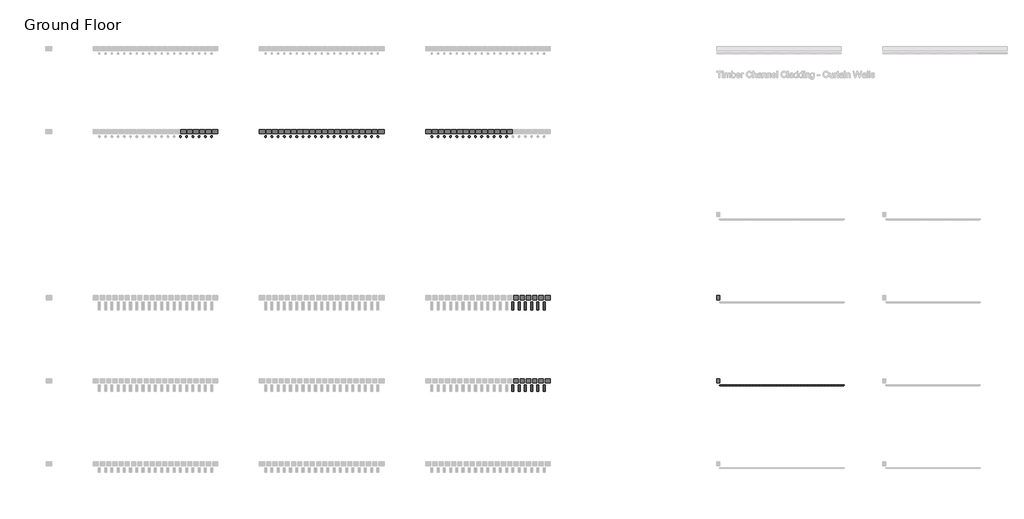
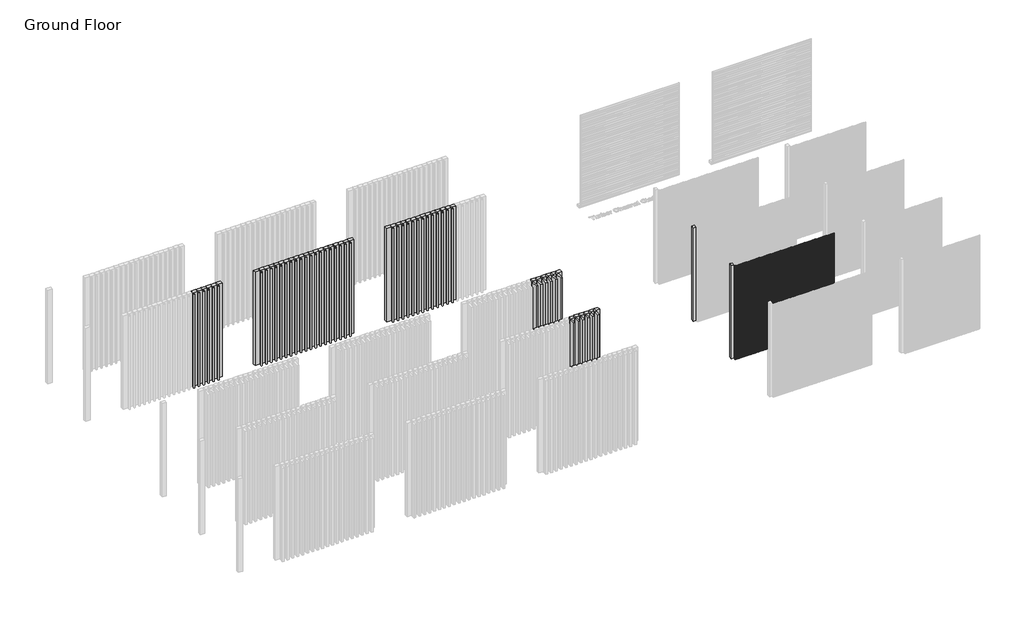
# One storey, part 22 of 350: 87 members, 54 plates.
"""IFC4 building model written with IfcOpenShell, lengths in millimetres."""

from ifc_helpers import new_model, si_unit, origin, place, context, project, spatial, transform, mapped, element, save
from components import rectangular_mullion_d8d867ca, rectangular_mullion_26362614, rectangular_mullion_afeb8ef8, rectangular_mullion_14973cdb, empty_system_panel_empty_23ba90fe, empty_system_panel_empty_02e968fa, empty_system_panel_empty_b0a57c37, empty_system_panel_empty_a9f5b765, empty_system_panel_empty_5da2f048, empty_system_panel_empty_cbd4e42b

model = new_model("IFC4")

# Units and contexts
model_context = context("Model", 3, world=origin())
ifc_project = project(units=[si_unit("LENGTHUNIT", "METRE", prefix="MILLI")], contexts=[model_context])

# Site, building, storey
site = spatial("IfcSite", under=ifc_project)
building = spatial("IfcBuilding", under=site)
storey = spatial("IfcBuildingStorey", under=building, Name="Ground Floor", Elevation=0.0)

# Members
placement = place(None, origin())
rectangular_mullion_shape = rectangular_mullion_d8d867ca(model_context)
element("IfcMember", 1, ObjectType="Rectangular Mullion : Batten_Aluminium_Modinex_Austratus_Linear_Dowel_SpottedGum", at=placement, inside=storey, context=model_context, shape_type="MappedRepresentation", body=[
    mapped(rectangular_mullion_shape, transform((16016.4361642, 30968.2978302, 0.0), x_axis=(1.0, 0.0, 0.0), y_axis=(0.0, -1.0, 0.0), z_axis=(0.0, 0.0, -1.0))),
])
element("IfcMember", 2, ObjectType="Rectangular Mullion : Batten_Aluminium_Modinex_Austratus_Linear_Dowel_SpottedGum", at=placement, inside=storey, context=model_context, shape_type="MappedRepresentation", body=[
    mapped(rectangular_mullion_shape, transform((16166.4361642, 30968.2978302, 0.0), x_axis=(1.0, 0.0, 0.0), y_axis=(0.0, -1.0, 0.0), z_axis=(0.0, 0.0, -1.0))),
])
element("IfcMember", 3, ObjectType="Rectangular Mullion : Batten_Aluminium_Modinex_Austratus_Linear_Dowel_SpottedGum", at=placement, inside=storey, context=model_context, shape_type="MappedRepresentation", body=[
    mapped(rectangular_mullion_shape, transform((16316.4361642, 30968.2978302, 0.0), x_axis=(1.0, 0.0, 0.0), y_axis=(0.0, -1.0, 0.0), z_axis=(0.0, 0.0, -1.0))),
])
element("IfcMember", 4, ObjectType="Rectangular Mullion : Batten_Aluminium_Modinex_Austratus_Linear_Dowel_SpottedGum", at=placement, inside=storey, context=model_context, shape_type="MappedRepresentation", body=[
    mapped(rectangular_mullion_shape, transform((16466.4361642, 30968.2978302, 0.0), x_axis=(1.0, 0.0, 0.0), y_axis=(0.0, -1.0, 0.0), z_axis=(0.0, 0.0, -1.0))),
])
element("IfcMember", 5, ObjectType="Rectangular Mullion : Batten_Aluminium_Modinex_Austratus_Linear_Dowel_SpottedGum", at=placement, inside=storey, context=model_context, shape_type="MappedRepresentation", body=[
    mapped(rectangular_mullion_shape, transform((16616.4361642, 30968.2978302, 0.0), x_axis=(1.0, 0.0, 0.0), y_axis=(0.0, -1.0, 0.0), z_axis=(0.0, 0.0, -1.0))),
])
element("IfcMember", 6, ObjectType="Rectangular Mullion : Batten_Aluminium_Modinex_Austratus_Linear_Dowel_SpottedGum", at=placement, inside=storey, context=model_context, shape_type="MappedRepresentation", body=[
    mapped(rectangular_mullion_shape, transform((16766.4361642, 30968.2978302, 0.0), x_axis=(1.0, 0.0, 0.0), y_axis=(0.0, -1.0, 0.0), z_axis=(0.0, 0.0, -1.0))),
])
element("IfcMember", 7, ObjectType="Rectangular Mullion : Batten_Aluminium_Modinex_Austratus_Linear_Dowel_TasmanianOak", at=placement, inside=storey, context=model_context, shape_type="MappedRepresentation", body=[
    mapped(rectangular_mullion_shape, transform((18066.4361642, 30968.2978302, 0.0), x_axis=(1.0, 0.0, 0.0), y_axis=(0.0, -1.0, 0.0), z_axis=(0.0, 0.0, -1.0))),
])
element("IfcMember", 8, ObjectType="Rectangular Mullion : Batten_Aluminium_Modinex_Austratus_Linear_Dowel_TasmanianOak", at=placement, inside=storey, context=model_context, shape_type="MappedRepresentation", body=[
    mapped(rectangular_mullion_shape, transform((18216.4361642, 30968.2978302, 0.0), x_axis=(1.0, 0.0, 0.0), y_axis=(0.0, -1.0, 0.0), z_axis=(0.0, 0.0, -1.0))),
])
element("IfcMember", 9, ObjectType="Rectangular Mullion : Batten_Aluminium_Modinex_Austratus_Linear_Dowel_TasmanianOak", at=placement, inside=storey, context=model_context, shape_type="MappedRepresentation", body=[
    mapped(rectangular_mullion_shape, transform((18366.4361642, 30968.2978302, 0.0), x_axis=(1.0, 0.0, 0.0), y_axis=(0.0, -1.0, 0.0), z_axis=(0.0, 0.0, -1.0))),
])
element("IfcMember", 10, ObjectType="Rectangular Mullion : Batten_Aluminium_Modinex_Austratus_Linear_Dowel_TasmanianOak", at=placement, inside=storey, context=model_context, shape_type="MappedRepresentation", body=[
    mapped(rectangular_mullion_shape, transform((18516.4361642, 30968.2978302, 0.0), x_axis=(1.0, 0.0, 0.0), y_axis=(0.0, -1.0, 0.0), z_axis=(0.0, 0.0, -1.0))),
])
element("IfcMember", 11, ObjectType="Rectangular Mullion : Batten_Aluminium_Modinex_Austratus_Linear_Dowel_TasmanianOak", at=placement, inside=storey, context=model_context, shape_type="MappedRepresentation", body=[
    mapped(rectangular_mullion_shape, transform((18666.4361642, 30968.2978302, 0.0), x_axis=(1.0, 0.0, 0.0), y_axis=(0.0, -1.0, 0.0), z_axis=(0.0, 0.0, -1.0))),
])
element("IfcMember", 12, ObjectType="Rectangular Mullion : Batten_Aluminium_Modinex_Austratus_Linear_Dowel_TasmanianOak", at=placement, inside=storey, context=model_context, shape_type="MappedRepresentation", body=[
    mapped(rectangular_mullion_shape, transform((18816.4361642, 30968.2978302, 0.0), x_axis=(1.0, 0.0, 0.0), y_axis=(0.0, -1.0, 0.0), z_axis=(0.0, 0.0, -1.0))),
])
element("IfcMember", 13, ObjectType="Rectangular Mullion : Batten_Aluminium_Modinex_Austratus_Linear_Dowel_TasmanianOak", at=placement, inside=storey, context=model_context, shape_type="MappedRepresentation", body=[
    mapped(rectangular_mullion_shape, transform((18966.4361642, 30968.2978302, 0.0), x_axis=(1.0, 0.0, 0.0), y_axis=(0.0, -1.0, 0.0), z_axis=(0.0, 0.0, -1.0))),
])
element("IfcMember", 14, ObjectType="Rectangular Mullion : Batten_Aluminium_Modinex_Austratus_Linear_Dowel_TasmanianOak", at=placement, inside=storey, context=model_context, shape_type="MappedRepresentation", body=[
    mapped(rectangular_mullion_shape, transform((19116.4361642, 30968.2978302, 0.0), x_axis=(1.0, 0.0, 0.0), y_axis=(0.0, -1.0, 0.0), z_axis=(0.0, 0.0, -1.0))),
])
element("IfcMember", 15, ObjectType="Rectangular Mullion : Batten_Aluminium_Modinex_Austratus_Linear_Dowel_TasmanianOak", at=placement, inside=storey, context=model_context, shape_type="MappedRepresentation", body=[
    mapped(rectangular_mullion_shape, transform((19266.4361642, 30968.2978302, 0.0), x_axis=(1.0, 0.0, 0.0), y_axis=(0.0, -1.0, 0.0), z_axis=(0.0, 0.0, -1.0))),
])
element("IfcMember", 16, ObjectType="Rectangular Mullion : Batten_Aluminium_Modinex_Austratus_Linear_Dowel_TasmanianOak", at=placement, inside=storey, context=model_context, shape_type="MappedRepresentation", body=[
    mapped(rectangular_mullion_shape, transform((19416.4361642, 30968.2978302, 0.0), x_axis=(1.0, 0.0, 0.0), y_axis=(0.0, -1.0, 0.0), z_axis=(0.0, 0.0, -1.0))),
])
element("IfcMember", 17, ObjectType="Rectangular Mullion : Batten_Aluminium_Modinex_Austratus_Linear_Dowel_TasmanianOak", at=placement, inside=storey, context=model_context, shape_type="MappedRepresentation", body=[
    mapped(rectangular_mullion_shape, transform((19566.4361642, 30968.2978302, 0.0), x_axis=(1.0, 0.0, 0.0), y_axis=(0.0, -1.0, 0.0), z_axis=(0.0, 0.0, -1.0))),
])
element("IfcMember", 18, ObjectType="Rectangular Mullion : Batten_Aluminium_Modinex_Austratus_Linear_Dowel_TasmanianOak", at=placement, inside=storey, context=model_context, shape_type="MappedRepresentation", body=[
    mapped(rectangular_mullion_shape, transform((19716.4361642, 30968.2978302, 0.0), x_axis=(1.0, 0.0, 0.0), y_axis=(0.0, -1.0, 0.0), z_axis=(0.0, 0.0, -1.0))),
])
element("IfcMember", 19, ObjectType="Rectangular Mullion : Batten_Aluminium_Modinex_Austratus_Linear_Dowel_TasmanianOak", at=placement, inside=storey, context=model_context, shape_type="MappedRepresentation", body=[
    mapped(rectangular_mullion_shape, transform((19866.4361642, 30968.2978302, 0.0), x_axis=(1.0, 0.0, 0.0), y_axis=(0.0, -1.0, 0.0), z_axis=(0.0, 0.0, -1.0))),
])
element("IfcMember", 20, ObjectType="Rectangular Mullion : Batten_Aluminium_Modinex_Austratus_Linear_Dowel_TasmanianOak", at=placement, inside=storey, context=model_context, shape_type="MappedRepresentation", body=[
    mapped(rectangular_mullion_shape, transform((20016.4361642, 30968.2978302, 0.0), x_axis=(1.0, 0.0, 0.0), y_axis=(0.0, -1.0, 0.0), z_axis=(0.0, 0.0, -1.0))),
])
element("IfcMember", 21, ObjectType="Rectangular Mullion : Batten_Aluminium_Modinex_Austratus_Linear_Dowel_TasmanianOak", at=placement, inside=storey, context=model_context, shape_type="MappedRepresentation", body=[
    mapped(rectangular_mullion_shape, transform((20166.4361642, 30968.2978302, 0.0), x_axis=(1.0, 0.0, 0.0), y_axis=(0.0, -1.0, 0.0), z_axis=(0.0, 0.0, -1.0))),
])
element("IfcMember", 22, ObjectType="Rectangular Mullion : Batten_Aluminium_Modinex_Austratus_Linear_Dowel_TasmanianOak", at=placement, inside=storey, context=model_context, shape_type="MappedRepresentation", body=[
    mapped(rectangular_mullion_shape, transform((20316.4361642, 30968.2978302, 0.0), x_axis=(1.0, 0.0, 0.0), y_axis=(0.0, -1.0, 0.0), z_axis=(0.0, 0.0, -1.0))),
])
element("IfcMember", 23, ObjectType="Rectangular Mullion : Batten_Aluminium_Modinex_Austratus_Linear_Dowel_TasmanianOak", at=placement, inside=storey, context=model_context, shape_type="MappedRepresentation", body=[
    mapped(rectangular_mullion_shape, transform((20466.4361642, 30968.2978302, 0.0), x_axis=(1.0, 0.0, 0.0), y_axis=(0.0, -1.0, 0.0), z_axis=(0.0, 0.0, -1.0))),
])
element("IfcMember", 24, ObjectType="Rectangular Mullion : Batten_Aluminium_Modinex_Austratus_Linear_Dowel_TasmanianOak", at=placement, inside=storey, context=model_context, shape_type="MappedRepresentation", body=[
    mapped(rectangular_mullion_shape, transform((20616.4361642, 30968.2978302, 0.0), x_axis=(1.0, 0.0, 0.0), y_axis=(0.0, -1.0, 0.0), z_axis=(0.0, 0.0, -1.0))),
])
element("IfcMember", 25, ObjectType="Rectangular Mullion : Batten_Aluminium_Modinex_Austratus_Linear_Dowel_TasmanianOak", at=placement, inside=storey, context=model_context, shape_type="MappedRepresentation", body=[
    mapped(rectangular_mullion_shape, transform((20766.4361642, 30968.2978302, 0.0), x_axis=(1.0, 0.0, 0.0), y_axis=(0.0, -1.0, 0.0), z_axis=(0.0, 0.0, -1.0))),
])
rectangular_mullion_2_shape = rectangular_mullion_26362614(model_context)
element("IfcMember", 26, ObjectType="Rectangular Mullion : Batten_Aluminium_Modinex_AluBatten_50x150_WhiteOak", at=placement, inside=storey, context=model_context, shape_type="MappedRepresentation", body=[
    mapped(rectangular_mullion_2_shape, transform((24016.4361642, 24968.2978302, 0.0), x_axis=(1.0, 0.0, 0.0), y_axis=(0.0, -1.0, 0.0), z_axis=(0.0, 0.0, -1.0))),
])
element("IfcMember", 27, ObjectType="Rectangular Mullion : Batten_Aluminium_Modinex_AluBatten_50x150_WhiteOak", at=placement, inside=storey, context=model_context, shape_type="MappedRepresentation", body=[
    mapped(rectangular_mullion_2_shape, transform((24166.4361642, 24968.2978302, 0.0), x_axis=(1.0, 0.0, 0.0), y_axis=(0.0, -1.0, 0.0), z_axis=(0.0, 0.0, -1.0))),
])
element("IfcMember", 28, ObjectType="Rectangular Mullion : Batten_Aluminium_Modinex_AluBatten_50x150_WhiteOak", at=placement, inside=storey, context=model_context, shape_type="MappedRepresentation", body=[
    mapped(rectangular_mullion_2_shape, transform((24316.4361642, 24968.2978302, 0.0), x_axis=(1.0, 0.0, 0.0), y_axis=(0.0, -1.0, 0.0), z_axis=(0.0, 0.0, -1.0))),
])
element("IfcMember", 29, ObjectType="Rectangular Mullion : Batten_Aluminium_Modinex_AluBatten_50x150_WhiteOak", at=placement, inside=storey, context=model_context, shape_type="MappedRepresentation", body=[
    mapped(rectangular_mullion_2_shape, transform((24466.4361642, 24968.2978302, 0.0), x_axis=(1.0, 0.0, 0.0), y_axis=(0.0, -1.0, 0.0), z_axis=(0.0, 0.0, -1.0))),
])
element("IfcMember", 30, ObjectType="Rectangular Mullion : Batten_Aluminium_Modinex_AluBatten_50x150_WhiteOak", at=placement, inside=storey, context=model_context, shape_type="MappedRepresentation", body=[
    mapped(rectangular_mullion_2_shape, transform((24616.4361642, 24968.2978302, 0.0), x_axis=(1.0, 0.0, 0.0), y_axis=(0.0, -1.0, 0.0), z_axis=(0.0, 0.0, -1.0))),
])
element("IfcMember", 31, ObjectType="Rectangular Mullion : Batten_Aluminium_Modinex_AluBatten_50x150_WhiteOak", at=placement, inside=storey, context=model_context, shape_type="MappedRepresentation", body=[
    mapped(rectangular_mullion_2_shape, transform((24766.4361642, 24968.2978302, 0.0), x_axis=(1.0, 0.0, 0.0), y_axis=(0.0, -1.0, 0.0), z_axis=(0.0, 0.0, -1.0))),
])
rectangular_mullion_3_shape = rectangular_mullion_afeb8ef8(model_context)
element("IfcMember", 32, ObjectType="Rectangular Mullion : Batten_Aluminium_Modinex_AluBatten_50x200_WhiteOak", at=placement, inside=storey, context=model_context, shape_type="MappedRepresentation", body=[
    mapped(rectangular_mullion_3_shape, transform((24016.4361642, 26968.2978302, 0.0), x_axis=(1.0, 0.0, 0.0), y_axis=(0.0, -1.0, 0.0), z_axis=(0.0, 0.0, -1.0))),
])
element("IfcMember", 33, ObjectType="Rectangular Mullion : Batten_Aluminium_Modinex_AluBatten_50x200_WhiteOak", at=placement, inside=storey, context=model_context, shape_type="MappedRepresentation", body=[
    mapped(rectangular_mullion_3_shape, transform((24166.4361642, 26968.2978302, 0.0), x_axis=(1.0, 0.0, 0.0), y_axis=(0.0, -1.0, 0.0), z_axis=(0.0, 0.0, -1.0))),
])
element("IfcMember", 34, ObjectType="Rectangular Mullion : Batten_Aluminium_Modinex_AluBatten_50x200_WhiteOak", at=placement, inside=storey, context=model_context, shape_type="MappedRepresentation", body=[
    mapped(rectangular_mullion_3_shape, transform((24316.4361642, 26968.2978302, 0.0), x_axis=(1.0, 0.0, 0.0), y_axis=(0.0, -1.0, 0.0), z_axis=(0.0, 0.0, -1.0))),
])
element("IfcMember", 35, ObjectType="Rectangular Mullion : Batten_Aluminium_Modinex_AluBatten_50x200_WhiteOak", at=placement, inside=storey, context=model_context, shape_type="MappedRepresentation", body=[
    mapped(rectangular_mullion_3_shape, transform((24466.4361642, 26968.2978302, 0.0), x_axis=(1.0, 0.0, 0.0), y_axis=(0.0, -1.0, 0.0), z_axis=(0.0, 0.0, -1.0))),
])
element("IfcMember", 36, ObjectType="Rectangular Mullion : Batten_Aluminium_Modinex_AluBatten_50x200_WhiteOak", at=placement, inside=storey, context=model_context, shape_type="MappedRepresentation", body=[
    mapped(rectangular_mullion_3_shape, transform((24616.4361642, 26968.2978302, 0.0), x_axis=(1.0, 0.0, 0.0), y_axis=(0.0, -1.0, 0.0), z_axis=(0.0, 0.0, -1.0))),
])
element("IfcMember", 37, ObjectType="Rectangular Mullion : Batten_Aluminium_Modinex_AluBatten_50x200_WhiteOak", at=placement, inside=storey, context=model_context, shape_type="MappedRepresentation", body=[
    mapped(rectangular_mullion_3_shape, transform((24766.4361642, 26968.2978302, 0.0), x_axis=(1.0, 0.0, 0.0), y_axis=(0.0, -1.0, 0.0), z_axis=(0.0, 0.0, -1.0))),
])
element("IfcMember", 38, ObjectType="Rectangular Mullion : Batten_Aluminium_Modinex_Austratus_Linear_Dowel_WhiteOak", at=placement, inside=storey, context=model_context, shape_type="MappedRepresentation", body=[
    mapped(rectangular_mullion_shape, transform((22066.4361642, 30968.2978302, 0.0), x_axis=(1.0, 0.0, 0.0), y_axis=(0.0, -1.0, 0.0), z_axis=(0.0, 0.0, -1.0))),
])
element("IfcMember", 39, ObjectType="Rectangular Mullion : Batten_Aluminium_Modinex_Austratus_Linear_Dowel_WhiteOak", at=placement, inside=storey, context=model_context, shape_type="MappedRepresentation", body=[
    mapped(rectangular_mullion_shape, transform((22216.4361642, 30968.2978302, 0.0), x_axis=(1.0, 0.0, 0.0), y_axis=(0.0, -1.0, 0.0), z_axis=(0.0, 0.0, -1.0))),
])
element("IfcMember", 40, ObjectType="Rectangular Mullion : Batten_Aluminium_Modinex_Austratus_Linear_Dowel_WhiteOak", at=placement, inside=storey, context=model_context, shape_type="MappedRepresentation", body=[
    mapped(rectangular_mullion_shape, transform((22366.4361642, 30968.2978302, 0.0), x_axis=(1.0, 0.0, 0.0), y_axis=(0.0, -1.0, 0.0), z_axis=(0.0, 0.0, -1.0))),
])
element("IfcMember", 41, ObjectType="Rectangular Mullion : Batten_Aluminium_Modinex_Austratus_Linear_Dowel_WhiteOak", at=placement, inside=storey, context=model_context, shape_type="MappedRepresentation", body=[
    mapped(rectangular_mullion_shape, transform((22516.4361642, 30968.2978302, 0.0), x_axis=(1.0, 0.0, 0.0), y_axis=(0.0, -1.0, 0.0), z_axis=(0.0, 0.0, -1.0))),
])
element("IfcMember", 42, ObjectType="Rectangular Mullion : Batten_Aluminium_Modinex_Austratus_Linear_Dowel_WhiteOak", at=placement, inside=storey, context=model_context, shape_type="MappedRepresentation", body=[
    mapped(rectangular_mullion_shape, transform((22666.4361642, 30968.2978302, 0.0), x_axis=(1.0, 0.0, 0.0), y_axis=(0.0, -1.0, 0.0), z_axis=(0.0, 0.0, -1.0))),
])
element("IfcMember", 43, ObjectType="Rectangular Mullion : Batten_Aluminium_Modinex_Austratus_Linear_Dowel_WhiteOak", at=placement, inside=storey, context=model_context, shape_type="MappedRepresentation", body=[
    mapped(rectangular_mullion_shape, transform((22816.4361642, 30968.2978302, 0.0), x_axis=(1.0, 0.0, 0.0), y_axis=(0.0, -1.0, 0.0), z_axis=(0.0, 0.0, -1.0))),
])
element("IfcMember", 44, ObjectType="Rectangular Mullion : Batten_Aluminium_Modinex_Austratus_Linear_Dowel_WhiteOak", at=placement, inside=storey, context=model_context, shape_type="MappedRepresentation", body=[
    mapped(rectangular_mullion_shape, transform((22966.4361642, 30968.2978302, 0.0), x_axis=(1.0, 0.0, 0.0), y_axis=(0.0, -1.0, 0.0), z_axis=(0.0, 0.0, -1.0))),
])
element("IfcMember", 45, ObjectType="Rectangular Mullion : Batten_Aluminium_Modinex_Austratus_Linear_Dowel_WhiteOak", at=placement, inside=storey, context=model_context, shape_type="MappedRepresentation", body=[
    mapped(rectangular_mullion_shape, transform((23116.4361642, 30968.2978302, 0.0), x_axis=(1.0, 0.0, 0.0), y_axis=(0.0, -1.0, 0.0), z_axis=(0.0, 0.0, -1.0))),
])
element("IfcMember", 46, ObjectType="Rectangular Mullion : Batten_Aluminium_Modinex_Austratus_Linear_Dowel_WhiteOak", at=placement, inside=storey, context=model_context, shape_type="MappedRepresentation", body=[
    mapped(rectangular_mullion_shape, transform((23266.4361642, 30968.2978302, 0.0), x_axis=(1.0, 0.0, 0.0), y_axis=(0.0, -1.0, 0.0), z_axis=(0.0, 0.0, -1.0))),
])
element("IfcMember", 47, ObjectType="Rectangular Mullion : Batten_Aluminium_Modinex_Austratus_Linear_Dowel_WhiteOak", at=placement, inside=storey, context=model_context, shape_type="MappedRepresentation", body=[
    mapped(rectangular_mullion_shape, transform((23416.4361642, 30968.2978302, 0.0), x_axis=(1.0, 0.0, 0.0), y_axis=(0.0, -1.0, 0.0), z_axis=(0.0, 0.0, -1.0))),
])
element("IfcMember", 48, ObjectType="Rectangular Mullion : Batten_Aluminium_Modinex_Austratus_Linear_Dowel_WhiteOak", at=placement, inside=storey, context=model_context, shape_type="MappedRepresentation", body=[
    mapped(rectangular_mullion_shape, transform((23566.4361642, 30968.2978302, 0.0), x_axis=(1.0, 0.0, 0.0), y_axis=(0.0, -1.0, 0.0), z_axis=(0.0, 0.0, -1.0))),
])
element("IfcMember", 49, ObjectType="Rectangular Mullion : Batten_Aluminium_Modinex_Austratus_Linear_Dowel_WhiteOak", at=placement, inside=storey, context=model_context, shape_type="MappedRepresentation", body=[
    mapped(rectangular_mullion_shape, transform((23716.4361642, 30968.2978302, 0.0), x_axis=(1.0, 0.0, 0.0), y_axis=(0.0, -1.0, 0.0), z_axis=(0.0, 0.0, -1.0))),
])
element("IfcMember", 50, ObjectType="Rectangular Mullion : Batten_Aluminium_Modinex_Austratus_Linear_Dowel_WhiteOak", at=placement, inside=storey, context=model_context, shape_type="MappedRepresentation", body=[
    mapped(rectangular_mullion_shape, transform((23866.4361642, 30968.2978302, 0.0), x_axis=(1.0, 0.0, 0.0), y_axis=(0.0, -1.0, 0.0), z_axis=(0.0, 0.0, -1.0))),
])
rectangular_mullion_4_shape = rectangular_mullion_14973cdb(model_context)
element("IfcMember", 51, ObjectType="Rectangular Mullion : Cladding_Timber_Modinex_Castelation_81x18_AlaskanYellowCedar", at=placement, inside=storey, context=model_context, shape_type="MappedRepresentation", body=[
    mapped(rectangular_mullion_4_shape, transform((30536.4361642, 24968.2978302, 0.0), x_axis=(1.0, 0.0, 0.0), y_axis=(0.0, -1.0, 0.0), z_axis=(0.0, 0.0, -1.0))),
])
element("IfcMember", 52, ObjectType="Rectangular Mullion : Cladding_Timber_Modinex_Castelation_81x18_AlaskanYellowCedar", at=placement, inside=storey, context=model_context, shape_type="MappedRepresentation", body=[
    mapped(rectangular_mullion_4_shape, transform((30617.4361642, 24968.2978302, 0.0), x_axis=(1.0, 0.0, 0.0), y_axis=(0.0, -1.0, 0.0), z_axis=(0.0, 0.0, -1.0))),
])
element("IfcMember", 53, ObjectType="Rectangular Mullion : Cladding_Timber_Modinex_Castelation_81x18_AlaskanYellowCedar", at=placement, inside=storey, context=model_context, shape_type="MappedRepresentation", body=[
    mapped(rectangular_mullion_4_shape, transform((30698.4361642, 24968.2978302, 0.0), x_axis=(1.0, 0.0, 0.0), y_axis=(0.0, -1.0, 0.0), z_axis=(0.0, 0.0, -1.0))),
])
element("IfcMember", 54, ObjectType="Rectangular Mullion : Cladding_Timber_Modinex_Castelation_81x18_AlaskanYellowCedar", at=placement, inside=storey, context=model_context, shape_type="MappedRepresentation", body=[
    mapped(rectangular_mullion_4_shape, transform((30779.4361642, 24968.2978302, 0.0), x_axis=(1.0, 0.0, 0.0), y_axis=(0.0, -1.0, 0.0), z_axis=(0.0, 0.0, -1.0))),
])
element("IfcMember", 55, ObjectType="Rectangular Mullion : Cladding_Timber_Modinex_Castelation_81x18_AlaskanYellowCedar", at=placement, inside=storey, context=model_context, shape_type="MappedRepresentation", body=[
    mapped(rectangular_mullion_4_shape, transform((30860.4361642, 24968.2978302, 0.0), x_axis=(1.0, 0.0, 0.0), y_axis=(0.0, -1.0, 0.0), z_axis=(0.0, 0.0, -1.0))),
])
element("IfcMember", 56, ObjectType="Rectangular Mullion : Cladding_Timber_Modinex_Castelation_81x18_AlaskanYellowCedar", at=placement, inside=storey, context=model_context, shape_type="MappedRepresentation", body=[
    mapped(rectangular_mullion_4_shape, transform((30941.4361642, 24968.2978302, 0.0), x_axis=(1.0, 0.0, 0.0), y_axis=(0.0, -1.0, 0.0), z_axis=(0.0, 0.0, -1.0))),
])
element("IfcMember", 57, ObjectType="Rectangular Mullion : Cladding_Timber_Modinex_Castelation_81x18_AlaskanYellowCedar", at=placement, inside=storey, context=model_context, shape_type="MappedRepresentation", body=[
    mapped(rectangular_mullion_4_shape, transform((31022.4361642, 24968.2978302, 0.0), x_axis=(1.0, 0.0, 0.0), y_axis=(0.0, -1.0, 0.0), z_axis=(0.0, 0.0, -1.0))),
])
element("IfcMember", 58, ObjectType="Rectangular Mullion : Cladding_Timber_Modinex_Castelation_81x18_AlaskanYellowCedar", at=placement, inside=storey, context=model_context, shape_type="MappedRepresentation", body=[
    mapped(rectangular_mullion_4_shape, transform((31103.4361642, 24968.2978302, 0.0), x_axis=(1.0, 0.0, 0.0), y_axis=(0.0, -1.0, 0.0), z_axis=(0.0, 0.0, -1.0))),
])
element("IfcMember", 59, ObjectType="Rectangular Mullion : Cladding_Timber_Modinex_Castelation_81x18_AlaskanYellowCedar", at=placement, inside=storey, context=model_context, shape_type="MappedRepresentation", body=[
    mapped(rectangular_mullion_4_shape, transform((31184.4361642, 24968.2978302, 0.0), x_axis=(1.0, 0.0, 0.0), y_axis=(0.0, -1.0, 0.0), z_axis=(0.0, 0.0, -1.0))),
])
element("IfcMember", 60, ObjectType="Rectangular Mullion : Cladding_Timber_Modinex_Castelation_81x18_AlaskanYellowCedar", at=placement, inside=storey, context=model_context, shape_type="MappedRepresentation", body=[
    mapped(rectangular_mullion_4_shape, transform((31265.4361642, 24968.2978302, 0.0), x_axis=(1.0, 0.0, 0.0), y_axis=(0.0, -1.0, 0.0), z_axis=(0.0, 0.0, -1.0))),
])
element("IfcMember", 61, ObjectType="Rectangular Mullion : Cladding_Timber_Modinex_Castelation_81x18_AlaskanYellowCedar", at=placement, inside=storey, context=model_context, shape_type="MappedRepresentation", body=[
    mapped(rectangular_mullion_4_shape, transform((31346.4361642, 24968.2978302, 0.0), x_axis=(1.0, 0.0, 0.0), y_axis=(0.0, -1.0, 0.0), z_axis=(0.0, 0.0, -1.0))),
])
element("IfcMember", 62, ObjectType="Rectangular Mullion : Cladding_Timber_Modinex_Castelation_81x18_AlaskanYellowCedar", at=placement, inside=storey, context=model_context, shape_type="MappedRepresentation", body=[
    mapped(rectangular_mullion_4_shape, transform((31427.4361642, 24968.2978302, 0.0), x_axis=(1.0, 0.0, 0.0), y_axis=(0.0, -1.0, 0.0), z_axis=(0.0, 0.0, -1.0))),
])
element("IfcMember", 63, ObjectType="Rectangular Mullion : Cladding_Timber_Modinex_Castelation_81x18_AlaskanYellowCedar", at=placement, inside=storey, context=model_context, shape_type="MappedRepresentation", body=[
    mapped(rectangular_mullion_4_shape, transform((31508.4361642, 24968.2978302, 0.0), x_axis=(1.0, 0.0, 0.0), y_axis=(0.0, -1.0, 0.0), z_axis=(0.0, 0.0, -1.0))),
])
element("IfcMember", 64, ObjectType="Rectangular Mullion : Cladding_Timber_Modinex_Castelation_81x18_AlaskanYellowCedar", at=placement, inside=storey, context=model_context, shape_type="MappedRepresentation", body=[
    mapped(rectangular_mullion_4_shape, transform((31589.4361642, 24968.2978302, 0.0), x_axis=(1.0, 0.0, 0.0), y_axis=(0.0, -1.0, 0.0), z_axis=(0.0, 0.0, -1.0))),
])
element("IfcMember", 65, ObjectType="Rectangular Mullion : Cladding_Timber_Modinex_Castelation_81x18_AlaskanYellowCedar", at=placement, inside=storey, context=model_context, shape_type="MappedRepresentation", body=[
    mapped(rectangular_mullion_4_shape, transform((31670.4361642, 24968.2978302, 0.0), x_axis=(1.0, 0.0, 0.0), y_axis=(0.0, -1.0, 0.0), z_axis=(0.0, 0.0, -1.0))),
])
element("IfcMember", 66, ObjectType="Rectangular Mullion : Cladding_Timber_Modinex_Castelation_81x18_AlaskanYellowCedar", at=placement, inside=storey, context=model_context, shape_type="MappedRepresentation", body=[
    mapped(rectangular_mullion_4_shape, transform((31751.4361642, 24968.2978302, 0.0), x_axis=(1.0, 0.0, 0.0), y_axis=(0.0, -1.0, 0.0), z_axis=(0.0, 0.0, -1.0))),
])
element("IfcMember", 67, ObjectType="Rectangular Mullion : Cladding_Timber_Modinex_Castelation_81x18_AlaskanYellowCedar", at=placement, inside=storey, context=model_context, shape_type="MappedRepresentation", body=[
    mapped(rectangular_mullion_4_shape, transform((31832.4361642, 24968.2978302, 0.0), x_axis=(1.0, 0.0, 0.0), y_axis=(0.0, -1.0, 0.0), z_axis=(0.0, 0.0, -1.0))),
])
element("IfcMember", 68, ObjectType="Rectangular Mullion : Cladding_Timber_Modinex_Castelation_81x18_AlaskanYellowCedar", at=placement, inside=storey, context=model_context, shape_type="MappedRepresentation", body=[
    mapped(rectangular_mullion_4_shape, transform((31913.4361642, 24968.2978302, 0.0), x_axis=(1.0, 0.0, 0.0), y_axis=(0.0, -1.0, 0.0), z_axis=(0.0, 0.0, -1.0))),
])
element("IfcMember", 69, ObjectType="Rectangular Mullion : Cladding_Timber_Modinex_Castelation_81x18_AlaskanYellowCedar", at=placement, inside=storey, context=model_context, shape_type="MappedRepresentation", body=[
    mapped(rectangular_mullion_4_shape, transform((30455.4361642, 24968.2978302, 0.0), x_axis=(1.0, 0.0, 0.0), y_axis=(0.0, -1.0, 0.0), z_axis=(0.0, 0.0, -1.0))),
])
element("IfcMember", 70, ObjectType="Rectangular Mullion : Cladding_Timber_Modinex_Castelation_81x18_AlaskanYellowCedar", at=placement, inside=storey, context=model_context, shape_type="MappedRepresentation", body=[
    mapped(rectangular_mullion_4_shape, transform((30374.4361642, 24968.2978302, 0.0), x_axis=(1.0, 0.0, 0.0), y_axis=(0.0, -1.0, 0.0), z_axis=(0.0, 0.0, -1.0))),
])
element("IfcMember", 71, ObjectType="Rectangular Mullion : Cladding_Timber_Modinex_Castelation_81x18_AlaskanYellowCedar", at=placement, inside=storey, context=model_context, shape_type="MappedRepresentation", body=[
    mapped(rectangular_mullion_4_shape, transform((30293.4361642, 24968.2978302, 0.0), x_axis=(1.0, 0.0, 0.0), y_axis=(0.0, -1.0, 0.0), z_axis=(0.0, 0.0, -1.0))),
])
element("IfcMember", 72, ObjectType="Rectangular Mullion : Cladding_Timber_Modinex_Castelation_81x18_AlaskanYellowCedar", at=placement, inside=storey, context=model_context, shape_type="MappedRepresentation", body=[
    mapped(rectangular_mullion_4_shape, transform((30212.4361642, 24968.2978302, 0.0), x_axis=(1.0, 0.0, 0.0), y_axis=(0.0, -1.0, 0.0), z_axis=(0.0, 0.0, -1.0))),
])
element("IfcMember", 73, ObjectType="Rectangular Mullion : Cladding_Timber_Modinex_Castelation_81x18_AlaskanYellowCedar", at=placement, inside=storey, context=model_context, shape_type="MappedRepresentation", body=[
    mapped(rectangular_mullion_4_shape, transform((30131.4361642, 24968.2978302, 0.0), x_axis=(1.0, 0.0, 0.0), y_axis=(0.0, -1.0, 0.0), z_axis=(0.0, 0.0, -1.0))),
])
element("IfcMember", 74, ObjectType="Rectangular Mullion : Cladding_Timber_Modinex_Castelation_81x18_AlaskanYellowCedar", at=placement, inside=storey, context=model_context, shape_type="MappedRepresentation", body=[
    mapped(rectangular_mullion_4_shape, transform((30050.4361642, 24968.2978302, 0.0), x_axis=(1.0, 0.0, 0.0), y_axis=(0.0, -1.0, 0.0), z_axis=(0.0, 0.0, -1.0))),
])
element("IfcMember", 75, ObjectType="Rectangular Mullion : Cladding_Timber_Modinex_Castelation_81x18_AlaskanYellowCedar", at=placement, inside=storey, context=model_context, shape_type="MappedRepresentation", body=[
    mapped(rectangular_mullion_4_shape, transform((29969.4361642, 24968.2978302, 0.0), x_axis=(1.0, 0.0, 0.0), y_axis=(0.0, -1.0, 0.0), z_axis=(0.0, 0.0, -1.0))),
])
element("IfcMember", 76, ObjectType="Rectangular Mullion : Cladding_Timber_Modinex_Castelation_81x18_AlaskanYellowCedar", at=placement, inside=storey, context=model_context, shape_type="MappedRepresentation", body=[
    mapped(rectangular_mullion_4_shape, transform((29888.4361642, 24968.2978302, 0.0), x_axis=(1.0, 0.0, 0.0), y_axis=(0.0, -1.0, 0.0), z_axis=(0.0, 0.0, -1.0))),
])
element("IfcMember", 77, ObjectType="Rectangular Mullion : Cladding_Timber_Modinex_Castelation_81x18_AlaskanYellowCedar", at=placement, inside=storey, context=model_context, shape_type="MappedRepresentation", body=[
    mapped(rectangular_mullion_4_shape, transform((29807.4361642, 24968.2978302, 0.0), x_axis=(1.0, 0.0, 0.0), y_axis=(0.0, -1.0, 0.0), z_axis=(0.0, 0.0, -1.0))),
])
element("IfcMember", 78, ObjectType="Rectangular Mullion : Cladding_Timber_Modinex_Castelation_81x18_AlaskanYellowCedar", at=placement, inside=storey, context=model_context, shape_type="MappedRepresentation", body=[
    mapped(rectangular_mullion_4_shape, transform((29726.4361642, 24968.2978302, 0.0), x_axis=(1.0, 0.0, 0.0), y_axis=(0.0, -1.0, 0.0), z_axis=(0.0, 0.0, -1.0))),
])
element("IfcMember", 79, ObjectType="Rectangular Mullion : Cladding_Timber_Modinex_Castelation_81x18_AlaskanYellowCedar", at=placement, inside=storey, context=model_context, shape_type="MappedRepresentation", body=[
    mapped(rectangular_mullion_4_shape, transform((29645.4361642, 24968.2978302, 0.0), x_axis=(1.0, 0.0, 0.0), y_axis=(0.0, -1.0, 0.0), z_axis=(0.0, 0.0, -1.0))),
])
element("IfcMember", 80, ObjectType="Rectangular Mullion : Cladding_Timber_Modinex_Castelation_81x18_AlaskanYellowCedar", at=placement, inside=storey, context=model_context, shape_type="MappedRepresentation", body=[
    mapped(rectangular_mullion_4_shape, transform((29564.4361642, 24968.2978302, 0.0), x_axis=(1.0, 0.0, 0.0), y_axis=(0.0, -1.0, 0.0), z_axis=(0.0, 0.0, -1.0))),
])
element("IfcMember", 81, ObjectType="Rectangular Mullion : Cladding_Timber_Modinex_Castelation_81x18_AlaskanYellowCedar", at=placement, inside=storey, context=model_context, shape_type="MappedRepresentation", body=[
    mapped(rectangular_mullion_4_shape, transform((29483.4361642, 24968.2978302, 0.0), x_axis=(1.0, 0.0, 0.0), y_axis=(0.0, -1.0, 0.0), z_axis=(0.0, 0.0, -1.0))),
])
element("IfcMember", 82, ObjectType="Rectangular Mullion : Cladding_Timber_Modinex_Castelation_81x18_AlaskanYellowCedar", at=placement, inside=storey, context=model_context, shape_type="MappedRepresentation", body=[
    mapped(rectangular_mullion_4_shape, transform((29402.4361642, 24968.2978302, 0.0), x_axis=(1.0, 0.0, 0.0), y_axis=(0.0, -1.0, 0.0), z_axis=(0.0, 0.0, -1.0))),
])
element("IfcMember", 83, ObjectType="Rectangular Mullion : Cladding_Timber_Modinex_Castelation_81x18_AlaskanYellowCedar", at=placement, inside=storey, context=model_context, shape_type="MappedRepresentation", body=[
    mapped(rectangular_mullion_4_shape, transform((29321.4361642, 24968.2978302, 0.0), x_axis=(1.0, 0.0, 0.0), y_axis=(0.0, -1.0, 0.0), z_axis=(0.0, 0.0, -1.0))),
])
element("IfcMember", 84, ObjectType="Rectangular Mullion : Cladding_Timber_Modinex_Castelation_81x18_AlaskanYellowCedar", at=placement, inside=storey, context=model_context, shape_type="MappedRepresentation", body=[
    mapped(rectangular_mullion_4_shape, transform((29240.4361642, 24968.2978302, 0.0), x_axis=(1.0, 0.0, 0.0), y_axis=(0.0, -1.0, 0.0), z_axis=(0.0, 0.0, -1.0))),
])
element("IfcMember", 85, ObjectType="Rectangular Mullion : Cladding_Timber_Modinex_Castelation_81x18_AlaskanYellowCedar", at=placement, inside=storey, context=model_context, shape_type="MappedRepresentation", body=[
    mapped(rectangular_mullion_4_shape, transform((29159.4361642, 24968.2978302, 0.0), x_axis=(1.0, 0.0, 0.0), y_axis=(0.0, -1.0, 0.0), z_axis=(0.0, 0.0, -1.0))),
])
element("IfcMember", 86, ObjectType="Rectangular Mullion : Cladding_Timber_Modinex_Castelation_81x18_AlaskanYellowCedar", at=placement, inside=storey, context=model_context, shape_type="MappedRepresentation", body=[
    mapped(rectangular_mullion_4_shape, transform((29078.4361642, 24968.2978302, 0.0), x_axis=(1.0, 0.0, 0.0), y_axis=(0.0, -1.0, 0.0), z_axis=(0.0, 0.0, -1.0))),
])
element("IfcMember", 87, ObjectType="Rectangular Mullion : Cladding_Timber_Modinex_Castelation_81x18_AlaskanYellowCedar", at=placement, inside=storey, context=model_context, shape_type="MappedRepresentation", body=[
    mapped(rectangular_mullion_4_shape, transform((28997.4361642, 24968.2978302, 0.0), x_axis=(1.0, 0.0, 0.0), y_axis=(0.0, -1.0, 0.0), z_axis=(0.0, 0.0, -1.0))),
])

# Plates
empty_system_panel_empty_shape = empty_system_panel_empty_23ba90fe(model_context)
element("IfcPlate", 88, ObjectType="Empty System Panel : Empty", at=placement, inside=storey, context=model_context, shape_type="MappedRepresentation", body=[
    mapped(empty_system_panel_empty_shape, transform((24091.4361642, 24968.2978302, 0.0), x_axis=(1.0, 0.0, 0.0), y_axis=(0.0, 1.0, 0.0), z_axis=(0.0, 0.0, 1.0))),
])
element("IfcPlate", 89, ObjectType="Empty System Panel : Empty", at=placement, inside=storey, context=model_context, shape_type="MappedRepresentation", body=[
    mapped(empty_system_panel_empty_shape, transform((24241.4361642, 24968.2978302, 0.0), x_axis=(1.0, 0.0, 0.0), y_axis=(0.0, 1.0, 0.0), z_axis=(0.0, 0.0, 1.0))),
])
element("IfcPlate", 90, ObjectType="Empty System Panel : Empty", at=placement, inside=storey, context=model_context, shape_type="MappedRepresentation", body=[
    mapped(empty_system_panel_empty_shape, transform((24391.4361642, 24968.2978302, 0.0), x_axis=(1.0, 0.0, 0.0), y_axis=(0.0, 1.0, 0.0), z_axis=(0.0, 0.0, 1.0))),
])
element("IfcPlate", 91, ObjectType="Empty System Panel : Empty", at=placement, inside=storey, context=model_context, shape_type="MappedRepresentation", body=[
    mapped(empty_system_panel_empty_shape, transform((24541.4361642, 24968.2978302, 0.0), x_axis=(1.0, 0.0, 0.0), y_axis=(0.0, 1.0, 0.0), z_axis=(0.0, 0.0, 1.0))),
])
element("IfcPlate", 92, ObjectType="Empty System Panel : Empty", at=placement, inside=storey, context=model_context, shape_type="MappedRepresentation", body=[
    mapped(empty_system_panel_empty_shape, transform((24691.4361642, 24968.2978302, 0.0), x_axis=(1.0, 0.0, 0.0), y_axis=(0.0, 1.0, 0.0), z_axis=(0.0, 0.0, 1.0))),
])
element("IfcPlate", 93, ObjectType="Empty System Panel : Empty", at=placement, inside=storey, context=model_context, shape_type="MappedRepresentation", body=[
    mapped(empty_system_panel_empty_shape, transform((24091.4361642, 26968.2978302, 0.0), x_axis=(1.0, 0.0, 0.0), y_axis=(0.0, 1.0, 0.0), z_axis=(0.0, 0.0, 1.0))),
])
element("IfcPlate", 94, ObjectType="Empty System Panel : Empty", at=placement, inside=storey, context=model_context, shape_type="MappedRepresentation", body=[
    mapped(empty_system_panel_empty_shape, transform((24241.4361642, 26968.2978302, 0.0), x_axis=(1.0, 0.0, 0.0), y_axis=(0.0, 1.0, 0.0), z_axis=(0.0, 0.0, 1.0))),
])
element("IfcPlate", 95, ObjectType="Empty System Panel : Empty", at=placement, inside=storey, context=model_context, shape_type="MappedRepresentation", body=[
    mapped(empty_system_panel_empty_shape, transform((24391.4361642, 26968.2978302, 0.0), x_axis=(1.0, 0.0, 0.0), y_axis=(0.0, 1.0, 0.0), z_axis=(0.0, 0.0, 1.0))),
])
element("IfcPlate", 96, ObjectType="Empty System Panel : Empty", at=placement, inside=storey, context=model_context, shape_type="MappedRepresentation", body=[
    mapped(empty_system_panel_empty_shape, transform((24541.4361642, 26968.2978302, 0.0), x_axis=(1.0, 0.0, 0.0), y_axis=(0.0, 1.0, 0.0), z_axis=(0.0, 0.0, 1.0))),
])
element("IfcPlate", 97, ObjectType="Empty System Panel : Empty", at=placement, inside=storey, context=model_context, shape_type="MappedRepresentation", body=[
    mapped(empty_system_panel_empty_shape, transform((24691.4361642, 26968.2978302, 0.0), x_axis=(1.0, 0.0, 0.0), y_axis=(0.0, 1.0, 0.0), z_axis=(0.0, 0.0, 1.0))),
])
empty_system_panel_empty_2_shape = empty_system_panel_empty_02e968fa(model_context)
element("IfcPlate", 98, ObjectType="Empty System Panel : Empty", at=placement, inside=storey, context=model_context, shape_type="MappedRepresentation", body=[
    mapped(empty_system_panel_empty_2_shape, transform((24853.9361641, 24968.2978302, 0.0), x_axis=(1.0, 0.0, 0.0), y_axis=(0.0, 1.0, 0.0), z_axis=(0.0, 0.0, 1.0))),
])
element("IfcPlate", 99, ObjectType="Empty System Panel : Empty", at=placement, inside=storey, context=model_context, shape_type="MappedRepresentation", body=[
    mapped(empty_system_panel_empty_2_shape, transform((24853.9361641, 26968.2978302, 0.0), x_axis=(1.0, 0.0, 0.0), y_axis=(0.0, 1.0, 0.0), z_axis=(0.0, 0.0, 1.0))),
])
empty_system_panel_empty_3_shape = empty_system_panel_empty_b0a57c37(model_context)
element("IfcPlate", 100, ObjectType="Empty System Panel : Empty", at=placement, inside=storey, context=model_context, shape_type="MappedRepresentation", body=[
    mapped(empty_system_panel_empty_3_shape, transform((17985.6861641, 30968.2978302, 0.0), x_axis=(1.0, 0.0, 0.0), y_axis=(0.0, 1.0, 0.0), z_axis=(0.0, 0.0, 1.0))),
])
element("IfcPlate", 101, ObjectType="Empty System Panel : Empty", at=placement, inside=storey, context=model_context, shape_type="MappedRepresentation", body=[
    mapped(empty_system_panel_empty_3_shape, transform((21985.6861641, 30968.2978302, 0.0), x_axis=(1.0, 0.0, 0.0), y_axis=(0.0, 1.0, 0.0), z_axis=(0.0, 0.0, 1.0))),
])
empty_system_panel_empty_4_shape = empty_system_panel_empty_a9f5b765(model_context)
element("IfcPlate", 102, ObjectType="Empty System Panel : Empty", at=placement, inside=storey, context=model_context, shape_type="MappedRepresentation", body=[
    mapped(empty_system_panel_empty_4_shape, transform((16091.4361642, 30968.2978302, 0.0), x_axis=(1.0, 0.0, 0.0), y_axis=(0.0, 1.0, 0.0), z_axis=(0.0, 0.0, 1.0))),
])
element("IfcPlate", 103, ObjectType="Empty System Panel : Empty", at=placement, inside=storey, context=model_context, shape_type="MappedRepresentation", body=[
    mapped(empty_system_panel_empty_4_shape, transform((16241.4361642, 30968.2978302, 0.0), x_axis=(1.0, 0.0, 0.0), y_axis=(0.0, 1.0, 0.0), z_axis=(0.0, 0.0, 1.0))),
])
element("IfcPlate", 104, ObjectType="Empty System Panel : Empty", at=placement, inside=storey, context=model_context, shape_type="MappedRepresentation", body=[
    mapped(empty_system_panel_empty_4_shape, transform((16391.4361642, 30968.2978302, 0.0), x_axis=(1.0, 0.0, 0.0), y_axis=(0.0, 1.0, 0.0), z_axis=(0.0, 0.0, 1.0))),
])
element("IfcPlate", 105, ObjectType="Empty System Panel : Empty", at=placement, inside=storey, context=model_context, shape_type="MappedRepresentation", body=[
    mapped(empty_system_panel_empty_4_shape, transform((16541.4361642, 30968.2978302, 0.0), x_axis=(1.0, 0.0, 0.0), y_axis=(0.0, 1.0, 0.0), z_axis=(0.0, 0.0, 1.0))),
])
element("IfcPlate", 106, ObjectType="Empty System Panel : Empty", at=placement, inside=storey, context=model_context, shape_type="MappedRepresentation", body=[
    mapped(empty_system_panel_empty_4_shape, transform((16691.4361642, 30968.2978302, 0.0), x_axis=(1.0, 0.0, 0.0), y_axis=(0.0, 1.0, 0.0), z_axis=(0.0, 0.0, 1.0))),
])
element("IfcPlate", 107, ObjectType="Empty System Panel : Empty", at=placement, inside=storey, context=model_context, shape_type="MappedRepresentation", body=[
    mapped(empty_system_panel_empty_4_shape, transform((18141.4361642, 30968.2978302, 0.0), x_axis=(1.0, 0.0, 0.0), y_axis=(0.0, 1.0, 0.0), z_axis=(0.0, 0.0, 1.0))),
])
element("IfcPlate", 108, ObjectType="Empty System Panel : Empty", at=placement, inside=storey, context=model_context, shape_type="MappedRepresentation", body=[
    mapped(empty_system_panel_empty_4_shape, transform((18291.4361642, 30968.2978302, 0.0), x_axis=(1.0, 0.0, 0.0), y_axis=(0.0, 1.0, 0.0), z_axis=(0.0, 0.0, 1.0))),
])
element("IfcPlate", 109, ObjectType="Empty System Panel : Empty", at=placement, inside=storey, context=model_context, shape_type="MappedRepresentation", body=[
    mapped(empty_system_panel_empty_4_shape, transform((18441.4361642, 30968.2978302, 0.0), x_axis=(1.0, 0.0, 0.0), y_axis=(0.0, 1.0, 0.0), z_axis=(0.0, 0.0, 1.0))),
])
element("IfcPlate", 110, ObjectType="Empty System Panel : Empty", at=placement, inside=storey, context=model_context, shape_type="MappedRepresentation", body=[
    mapped(empty_system_panel_empty_4_shape, transform((18591.4361642, 30968.2978302, 0.0), x_axis=(1.0, 0.0, 0.0), y_axis=(0.0, 1.0, 0.0), z_axis=(0.0, 0.0, 1.0))),
])
element("IfcPlate", 111, ObjectType="Empty System Panel : Empty", at=placement, inside=storey, context=model_context, shape_type="MappedRepresentation", body=[
    mapped(empty_system_panel_empty_4_shape, transform((18741.4361642, 30968.2978302, 0.0), x_axis=(1.0, 0.0, 0.0), y_axis=(0.0, 1.0, 0.0), z_axis=(0.0, 0.0, 1.0))),
])
element("IfcPlate", 112, ObjectType="Empty System Panel : Empty", at=placement, inside=storey, context=model_context, shape_type="MappedRepresentation", body=[
    mapped(empty_system_panel_empty_4_shape, transform((18891.4361642, 30968.2978302, 0.0), x_axis=(1.0, 0.0, 0.0), y_axis=(0.0, 1.0, 0.0), z_axis=(0.0, 0.0, 1.0))),
])
element("IfcPlate", 113, ObjectType="Empty System Panel : Empty", at=placement, inside=storey, context=model_context, shape_type="MappedRepresentation", body=[
    mapped(empty_system_panel_empty_4_shape, transform((19041.4361642, 30968.2978302, 0.0), x_axis=(1.0, 0.0, 0.0), y_axis=(0.0, 1.0, 0.0), z_axis=(0.0, 0.0, 1.0))),
])
element("IfcPlate", 114, ObjectType="Empty System Panel : Empty", at=placement, inside=storey, context=model_context, shape_type="MappedRepresentation", body=[
    mapped(empty_system_panel_empty_4_shape, transform((19191.4361642, 30968.2978302, 0.0), x_axis=(1.0, 0.0, 0.0), y_axis=(0.0, 1.0, 0.0), z_axis=(0.0, 0.0, 1.0))),
])
element("IfcPlate", 115, ObjectType="Empty System Panel : Empty", at=placement, inside=storey, context=model_context, shape_type="MappedRepresentation", body=[
    mapped(empty_system_panel_empty_4_shape, transform((19341.4361642, 30968.2978302, 0.0), x_axis=(1.0, 0.0, 0.0), y_axis=(0.0, 1.0, 0.0), z_axis=(0.0, 0.0, 1.0))),
])
element("IfcPlate", 116, ObjectType="Empty System Panel : Empty", at=placement, inside=storey, context=model_context, shape_type="MappedRepresentation", body=[
    mapped(empty_system_panel_empty_4_shape, transform((19491.4361642, 30968.2978302, 0.0), x_axis=(1.0, 0.0, 0.0), y_axis=(0.0, 1.0, 0.0), z_axis=(0.0, 0.0, 1.0))),
])
element("IfcPlate", 117, ObjectType="Empty System Panel : Empty", at=placement, inside=storey, context=model_context, shape_type="MappedRepresentation", body=[
    mapped(empty_system_panel_empty_4_shape, transform((19641.4361642, 30968.2978302, 0.0), x_axis=(1.0, 0.0, 0.0), y_axis=(0.0, 1.0, 0.0), z_axis=(0.0, 0.0, 1.0))),
])
element("IfcPlate", 118, ObjectType="Empty System Panel : Empty", at=placement, inside=storey, context=model_context, shape_type="MappedRepresentation", body=[
    mapped(empty_system_panel_empty_4_shape, transform((19791.4361642, 30968.2978302, 0.0), x_axis=(1.0, 0.0, 0.0), y_axis=(0.0, 1.0, 0.0), z_axis=(0.0, 0.0, 1.0))),
])
element("IfcPlate", 119, ObjectType="Empty System Panel : Empty", at=placement, inside=storey, context=model_context, shape_type="MappedRepresentation", body=[
    mapped(empty_system_panel_empty_4_shape, transform((19941.4361642, 30968.2978302, 0.0), x_axis=(1.0, 0.0, 0.0), y_axis=(0.0, 1.0, 0.0), z_axis=(0.0, 0.0, 1.0))),
])
element("IfcPlate", 120, ObjectType="Empty System Panel : Empty", at=placement, inside=storey, context=model_context, shape_type="MappedRepresentation", body=[
    mapped(empty_system_panel_empty_4_shape, transform((20091.4361642, 30968.2978302, 0.0), x_axis=(1.0, 0.0, 0.0), y_axis=(0.0, 1.0, 0.0), z_axis=(0.0, 0.0, 1.0))),
])
element("IfcPlate", 121, ObjectType="Empty System Panel : Empty", at=placement, inside=storey, context=model_context, shape_type="MappedRepresentation", body=[
    mapped(empty_system_panel_empty_4_shape, transform((20241.4361642, 30968.2978302, 0.0), x_axis=(1.0, 0.0, 0.0), y_axis=(0.0, 1.0, 0.0), z_axis=(0.0, 0.0, 1.0))),
])
element("IfcPlate", 122, ObjectType="Empty System Panel : Empty", at=placement, inside=storey, context=model_context, shape_type="MappedRepresentation", body=[
    mapped(empty_system_panel_empty_4_shape, transform((20391.4361642, 30968.2978302, 0.0), x_axis=(1.0, 0.0, 0.0), y_axis=(0.0, 1.0, 0.0), z_axis=(0.0, 0.0, 1.0))),
])
element("IfcPlate", 123, ObjectType="Empty System Panel : Empty", at=placement, inside=storey, context=model_context, shape_type="MappedRepresentation", body=[
    mapped(empty_system_panel_empty_4_shape, transform((20541.4361642, 30968.2978302, 0.0), x_axis=(1.0, 0.0, 0.0), y_axis=(0.0, 1.0, 0.0), z_axis=(0.0, 0.0, 1.0))),
])
element("IfcPlate", 124, ObjectType="Empty System Panel : Empty", at=placement, inside=storey, context=model_context, shape_type="MappedRepresentation", body=[
    mapped(empty_system_panel_empty_4_shape, transform((20691.4361642, 30968.2978302, 0.0), x_axis=(1.0, 0.0, 0.0), y_axis=(0.0, 1.0, 0.0), z_axis=(0.0, 0.0, 1.0))),
])
element("IfcPlate", 125, ObjectType="Empty System Panel : Empty", at=placement, inside=storey, context=model_context, shape_type="MappedRepresentation", body=[
    mapped(empty_system_panel_empty_4_shape, transform((22141.4361642, 30968.2978302, 0.0), x_axis=(1.0, 0.0, 0.0), y_axis=(0.0, 1.0, 0.0), z_axis=(0.0, 0.0, 1.0))),
])
element("IfcPlate", 126, ObjectType="Empty System Panel : Empty", at=placement, inside=storey, context=model_context, shape_type="MappedRepresentation", body=[
    mapped(empty_system_panel_empty_4_shape, transform((22291.4361642, 30968.2978302, 0.0), x_axis=(1.0, 0.0, 0.0), y_axis=(0.0, 1.0, 0.0), z_axis=(0.0, 0.0, 1.0))),
])
element("IfcPlate", 127, ObjectType="Empty System Panel : Empty", at=placement, inside=storey, context=model_context, shape_type="MappedRepresentation", body=[
    mapped(empty_system_panel_empty_4_shape, transform((22441.4361642, 30968.2978302, 0.0), x_axis=(1.0, 0.0, 0.0), y_axis=(0.0, 1.0, 0.0), z_axis=(0.0, 0.0, 1.0))),
])
element("IfcPlate", 128, ObjectType="Empty System Panel : Empty", at=placement, inside=storey, context=model_context, shape_type="MappedRepresentation", body=[
    mapped(empty_system_panel_empty_4_shape, transform((22591.4361642, 30968.2978302, 0.0), x_axis=(1.0, 0.0, 0.0), y_axis=(0.0, 1.0, 0.0), z_axis=(0.0, 0.0, 1.0))),
])
element("IfcPlate", 129, ObjectType="Empty System Panel : Empty", at=placement, inside=storey, context=model_context, shape_type="MappedRepresentation", body=[
    mapped(empty_system_panel_empty_4_shape, transform((22741.4361642, 30968.2978302, 0.0), x_axis=(1.0, 0.0, 0.0), y_axis=(0.0, 1.0, 0.0), z_axis=(0.0, 0.0, 1.0))),
])
element("IfcPlate", 130, ObjectType="Empty System Panel : Empty", at=placement, inside=storey, context=model_context, shape_type="MappedRepresentation", body=[
    mapped(empty_system_panel_empty_4_shape, transform((22891.4361642, 30968.2978302, 0.0), x_axis=(1.0, 0.0, 0.0), y_axis=(0.0, 1.0, 0.0), z_axis=(0.0, 0.0, 1.0))),
])
element("IfcPlate", 131, ObjectType="Empty System Panel : Empty", at=placement, inside=storey, context=model_context, shape_type="MappedRepresentation", body=[
    mapped(empty_system_panel_empty_4_shape, transform((23041.4361642, 30968.2978302, 0.0), x_axis=(1.0, 0.0, 0.0), y_axis=(0.0, 1.0, 0.0), z_axis=(0.0, 0.0, 1.0))),
])
element("IfcPlate", 132, ObjectType="Empty System Panel : Empty", at=placement, inside=storey, context=model_context, shape_type="MappedRepresentation", body=[
    mapped(empty_system_panel_empty_4_shape, transform((23191.4361642, 30968.2978302, 0.0), x_axis=(1.0, 0.0, 0.0), y_axis=(0.0, 1.0, 0.0), z_axis=(0.0, 0.0, 1.0))),
])
element("IfcPlate", 133, ObjectType="Empty System Panel : Empty", at=placement, inside=storey, context=model_context, shape_type="MappedRepresentation", body=[
    mapped(empty_system_panel_empty_4_shape, transform((23341.4361642, 30968.2978302, 0.0), x_axis=(1.0, 0.0, 0.0), y_axis=(0.0, 1.0, 0.0), z_axis=(0.0, 0.0, 1.0))),
])
element("IfcPlate", 134, ObjectType="Empty System Panel : Empty", at=placement, inside=storey, context=model_context, shape_type="MappedRepresentation", body=[
    mapped(empty_system_panel_empty_4_shape, transform((23491.4361642, 30968.2978302, 0.0), x_axis=(1.0, 0.0, 0.0), y_axis=(0.0, 1.0, 0.0), z_axis=(0.0, 0.0, 1.0))),
])
element("IfcPlate", 135, ObjectType="Empty System Panel : Empty", at=placement, inside=storey, context=model_context, shape_type="MappedRepresentation", body=[
    mapped(empty_system_panel_empty_4_shape, transform((23641.4361642, 30968.2978302, 0.0), x_axis=(1.0, 0.0, 0.0), y_axis=(0.0, 1.0, 0.0), z_axis=(0.0, 0.0, 1.0))),
])
element("IfcPlate", 136, ObjectType="Empty System Panel : Empty", at=placement, inside=storey, context=model_context, shape_type="MappedRepresentation", body=[
    mapped(empty_system_panel_empty_4_shape, transform((23791.4361642, 30968.2978302, 0.0), x_axis=(1.0, 0.0, 0.0), y_axis=(0.0, 1.0, 0.0), z_axis=(0.0, 0.0, 1.0))),
])
element("IfcPlate", 137, ObjectType="Empty System Panel : Empty", at=placement, inside=storey, context=model_context, shape_type="MappedRepresentation", body=[
    mapped(empty_system_panel_empty_4_shape, transform((23941.4361642, 30968.2978302, 0.0), x_axis=(1.0, 0.0, 0.0), y_axis=(0.0, 1.0, 0.0), z_axis=(0.0, 0.0, 1.0))),
])
empty_system_panel_empty_5_shape = empty_system_panel_empty_5da2f048(model_context)
element("IfcPlate", 138, ObjectType="Empty System Panel : Empty", at=placement, inside=storey, context=model_context, shape_type="MappedRepresentation", body=[
    mapped(empty_system_panel_empty_5_shape, transform((16847.1861641, 30968.2978302, 0.0), x_axis=(1.0, 0.0, 0.0), y_axis=(0.0, 1.0, 0.0), z_axis=(0.0, 0.0, 1.0))),
])
element("IfcPlate", 139, ObjectType="Empty System Panel : Empty", at=placement, inside=storey, context=model_context, shape_type="MappedRepresentation", body=[
    mapped(empty_system_panel_empty_5_shape, transform((20847.1861641, 30968.2978302, 0.0), x_axis=(1.0, 0.0, 0.0), y_axis=(0.0, 1.0, 0.0), z_axis=(0.0, 0.0, 1.0))),
])
empty_system_panel_empty_6_shape = empty_system_panel_empty_cbd4e42b(model_context)
element("IfcPlate", 140, ObjectType="Empty System Panel : Empty", at=placement, inside=storey, context=model_context, shape_type="MappedRepresentation", body=[
    mapped(empty_system_panel_empty_6_shape, transform((28954.4602384, 24968.2978302, 0.0), x_axis=(1.0, 0.0, 0.0), y_axis=(0.0, 1.0, 0.0), z_axis=(0.0, 0.0, 1.0))),
])
element("IfcPlate", 141, ObjectType="Empty System Panel : Empty", at=placement, inside=storey, context=model_context, shape_type="MappedRepresentation", body=[
    mapped(empty_system_panel_empty_6_shape, transform((28954.4602384, 26968.2978302, 0.0), x_axis=(1.0, 0.0, 0.0), y_axis=(0.0, 1.0, 0.0), z_axis=(0.0, 0.0, 1.0))),
])

save(model, "model.ifc")
